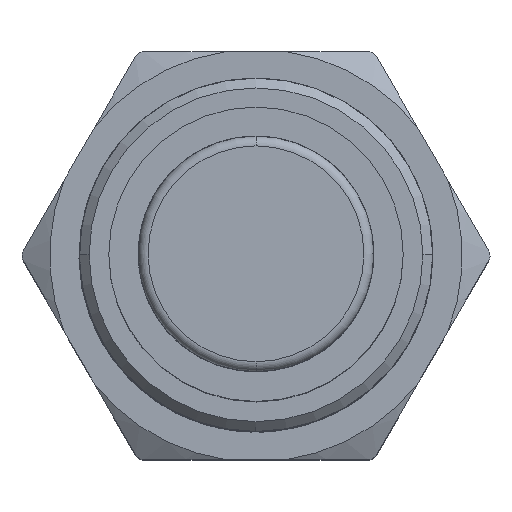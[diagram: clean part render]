
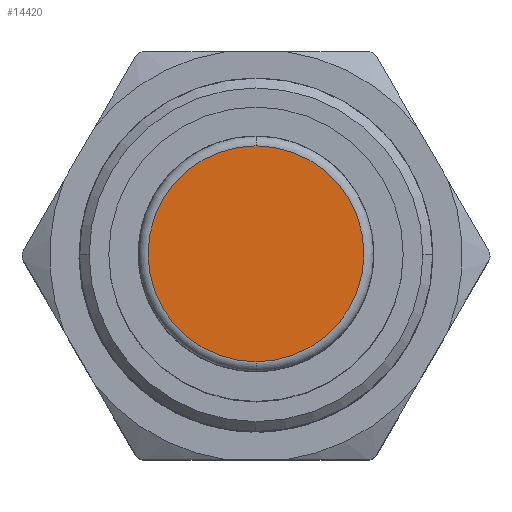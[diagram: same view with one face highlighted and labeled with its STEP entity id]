
A CAD part, top view. The second image highlights one B-rep face of the part: STEP entity #14420.
In plain terms, the highlighted planar face has unit normal (0, 0, 1).
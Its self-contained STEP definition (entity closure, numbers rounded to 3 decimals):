
#5617=CARTESIAN_POINT('',(0.,0.,90.));
#5618=DIRECTION('',(0.,0.,1.));
#5619=DIRECTION('',(0.,-1.,0.));
#5620=AXIS2_PLACEMENT_3D('',#5617,#5618,#5619);
#5625=CARTESIAN_POINT('',(0.,0.,90.));
#5626=DIRECTION('',(0.,0.,1.));
#5627=DIRECTION('',(0.,1.,0.));
#5628=AXIS2_PLACEMENT_3D('',#5625,#5626,#5627);
#5827=CARTESIAN_POINT('',(0.,-5.5,90.));
#5828=CARTESIAN_POINT('',(0.,5.5,90.));
#5829=VERTEX_POINT('',#5827);
#5830=VERTEX_POINT('',#5828);
#14411=CARTESIAN_POINT('',(0.,0.,90.));
#14412=DIRECTION('',(0.,0.,1.));
#14413=DIRECTION('',(0.,-1.,0.));
#14414=AXIS2_PLACEMENT_3D('',#14411,#14412,#14413);
#14415=PLANE('',#14414);
#14416=ORIENTED_EDGE('',*,*,#14377,.F.);
#14417=ORIENTED_EDGE('',*,*,#14403,.F.);
#14418=EDGE_LOOP('',(#14416,#14417));
#14419=FACE_OUTER_BOUND('',#14418,.F.);
#5621=CIRCLE('',#5620,5.5);
#5629=CIRCLE('',#5628,5.5);
#14377=EDGE_CURVE('',#5829,#5830,#5621,.T.);
#14403=EDGE_CURVE('',#5830,#5829,#5629,.T.);
#14420=ADVANCED_FACE('',(#14419),#14415,.T.);
